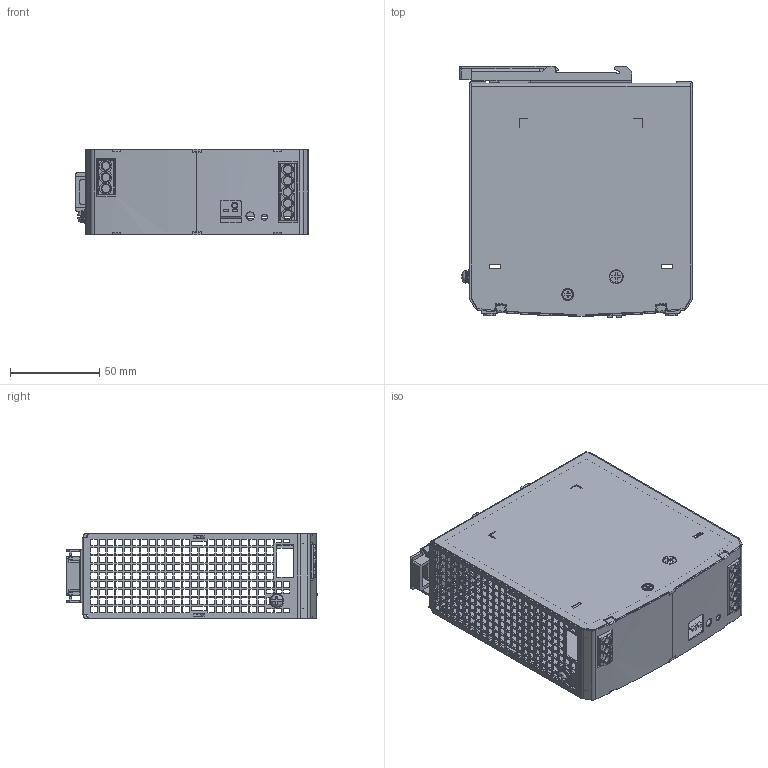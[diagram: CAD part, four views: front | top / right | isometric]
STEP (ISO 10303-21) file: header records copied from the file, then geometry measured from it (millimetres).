
FILE_DESCRIPTION(('TFLEX Exchange Step'),'2;1');
FILE_NAME('STK-EX-PSU-48-480W.stp', '2025-01-30T12:58:35+03:00',('Yuriy Romanov'),('Unknown organisation'),'TFLEX Exchange 2023.2','T-FLEX CAD','Unknown authorisation');
FILE_SCHEMA( ('AUTOMOTIVE_DESIGN { 1 0 10303 214 1 1 1 1 }') );
Length unit declared in the file: millimetre
Products named in the file (1): STK-EX-PSU-48-480W
Bounding box: 130.6 x 141.28 x 48 mm (x, y, z)
Volume: 51001.8 mm3; surface area: 121607 mm2
Topology: 31 solids, 31 shells, 2977 faces, 8664 edges, 5754 vertices
Faces by surface type: plane 2442, cylinder 378, bspline 64, cone 40, torus 35, sphere 18
Full cylindrical faces by diameter (mm): 2.45 x3, 3 x5, 3.2 x1, 3.3 x2, 3.4 x1, 3.6 x5, 4 x6, 4.2 x6, 5 x4, 5.1 x8, 7.2 x2, 8 x1
Entity records: 117097 total; most frequent: CARTESIAN_POINT 36723, ORIENTED_EDGE 17310, DIRECTION 14933, EDGE_CURVE 8655, VECTOR 7189, LINE 7189, VERTEX_POINT 5754, EDGE_LOOP 3929
